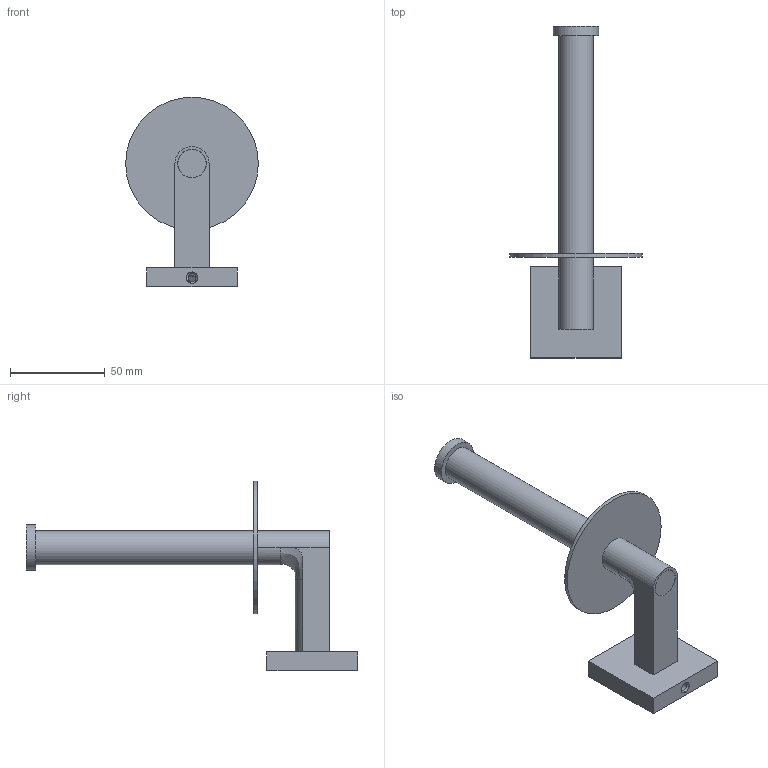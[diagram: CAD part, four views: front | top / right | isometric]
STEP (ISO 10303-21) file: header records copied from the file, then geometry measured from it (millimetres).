
FILE_DESCRIPTION(/* description */ (''),/* implementation_level */ '2;1');
FILE_NAME(/* name */ 'c:\worker\convert-fusion-r05\tmp\job-1\12\output\files\76315e01-6ea1-494d-a338-ca232ad54734\f4adf6b6-04d5-4352-95f9-6721cde7c302.stp',/* time_stamp */ '2019-07-21T21:17:08+00:00',/* author */ (''),/* organization */ (''),/* preprocessor_version */ 'ST-DEVELOPER v18',/* originating_system */ 'Autodesk Translation Framework v8.2.0.1029',/* authorisation */ '');
FILE_SCHEMA (('AUTOMOTIVE_DESIGN { 1 0 10303 214 3 1 1 }'));
Length unit declared in the file: millimetre
Products named in the file (1): !TB50530
Bounding box: 70 x 175 x 100 mm (x, y, z)
Volume: 41936.9 mm3; surface area: 46100.1 mm2
Topology: 11 solids, 11 shells, 261 faces, 737 edges, 507 vertices
Faces by surface type: plane 170, cylinder 69, cone 13, bspline 5, sphere 2, torus 2
Full cylindrical faces by diameter (mm): 4.2 x2, 5 x2, 5.2 x1, 6 x1, 6.2 x2, 9 x2, 11 x1, 12 x1, 13 x1, 14 x1, 14.9 x1, 15 x2, 15.8 x1, 16.7 x1, 16.8 x1, 18 x1, 19 x1, 24 x1, 70 x1
Entity records: 9472 total; most frequent: CARTESIAN_POINT 2412, DIRECTION 1489, ORIENTED_EDGE 1474, EDGE_CURVE 737, AXIS2_PLACEMENT_3D 530, VERTEX_POINT 507, LINE 429, VECTOR 429
